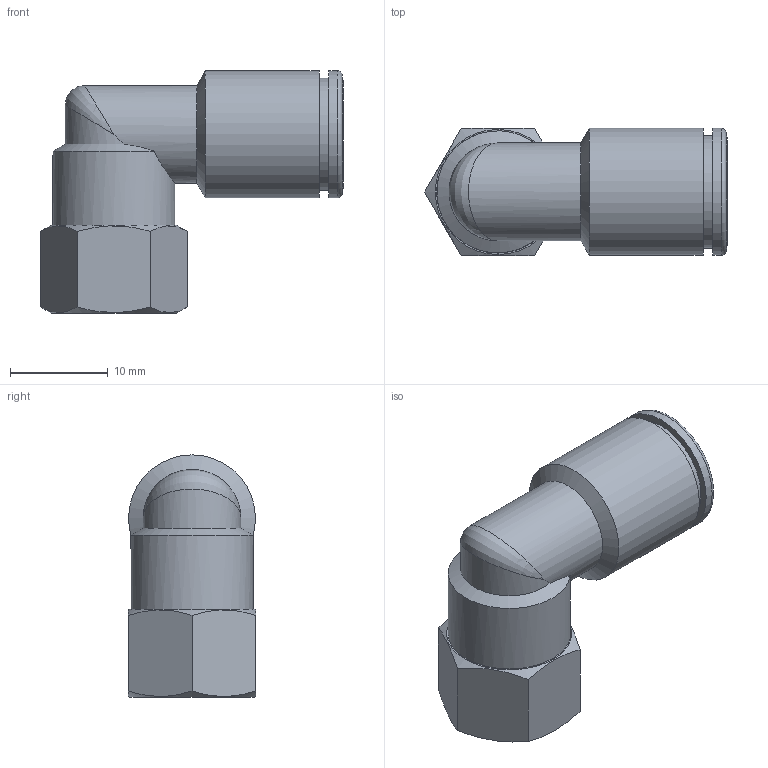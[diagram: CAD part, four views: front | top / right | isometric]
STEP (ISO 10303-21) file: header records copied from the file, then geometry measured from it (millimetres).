
FILE_DESCRIPTION(('Bauteilbeschreibung','HiCAD-Model','HiCAD-STEP-TRANSLATION','Bauteilbeschreibung'),'2;1');
FILE_NAME('B:/ABGLEICH/ZEICHNUNGEN/STEP FÜR INTERNET/STEP/IPSO 022_F/202805_IPSO_022-F_8_1-8.STP','2012-01-27T08:31:09+00:00',('Konstrukteur'),('Konstrukteur Firma GmbH'),' HiCAD neXt 2008, Step 3.1.1401.2J ','HiCAD neXt 2008','confidential');
FILE_SCHEMA(('AUTOMOTIVE_DESIGN { 1 2 10303 214 0 1 1 1 }'));
Length unit declared in the file: millimetre
Products named in the file (6): A02805_IPSO_022_F_8_1_8; A14622_N2_GEW___1_8_1_8; A146220N20GEW0001080108; G 1_8; R202205_N1_N2; DR8_1_NEU
Assembly tree (5 placements, depth 3):
  A02805_IPSO_022_F_8_1_8
    A14622_N2_GEW___1_8_1_8
    A146220N20GEW0001080108
      G 1_8
    R202205_N1_N2
    DR8_1_NEU
Bounding box: 31.01 x 13 x 24.8 mm (x, y, z)
Volume: 2787.3 mm3; surface area: 4412.9 mm2
Topology: 4 solids, 4 shells, 64 faces, 140 edges, 84 vertices
Faces by surface type: cylinder 22, cone 22, plane 18, bspline 1, torus 1
Full cylindrical faces by diameter (mm): 5.5 x1, 7 x1, 8.1 x1, 8.2 x1, 8.566 x2, 9 x2, 9.728 x2, 10 x1, 10.1 x3, 11 x1, 11.5 x1, 11.6 x1, 12.5 x1, 13 x2
Entity records: 4906 total; most frequent: CARTESIAN_POINT 3193, DIRECTION 266, ORIENTED_EDGE 180, AXIS2_PLACEMENT_3D 129, EDGE_LOOP 114, EDGE_CURVE 90, COLOUR_RGB 80, PRESENTATION_STYLE_ASSIGNMENT 80
